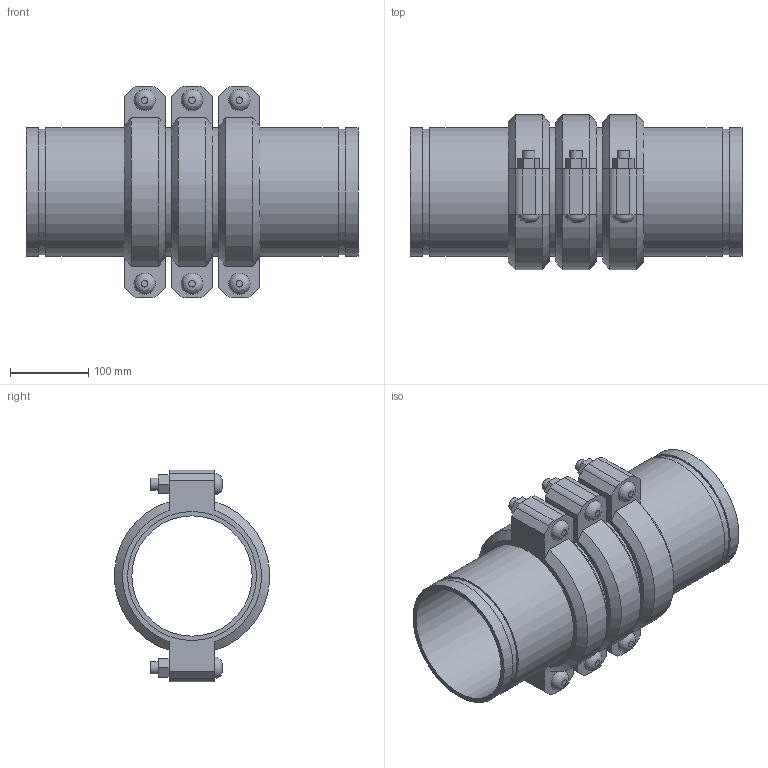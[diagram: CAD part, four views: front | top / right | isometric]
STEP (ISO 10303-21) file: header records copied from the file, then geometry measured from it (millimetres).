
FILE_DESCRIPTION(/* description */ ('VIC EXPANSION JOINT 3 COUPLINGS COMPRESSED STYLE 155 (OGS)','CAx-IF Rec.Pracs.---Representation and Presentation of Product Manufacturing Information (PMI)---4.0---2014-10-13'),/* implementation_level */ '2;1');
FILE_NAME(/* name */ 'C:\Users\kkamble\AppData\Roaming\Autodesk\ApplicationPlugins\Victaulic.Temp\A971\Victaulic_IPS_Expansion Joint_Compressed_3 Couplings_Style 155 (OGS)_06.0 (165.1) (150).stp',/* time_stamp */ '2021-06-27T00:25:52+02:00',/* author */ ('kkamble'),/* organization */ ('Victaulic'),/* preprocessor_version */ 'ST-DEVELOPER v17.2',/* originating_system */ 'Autodesk Inventor 2019',/* authorisation */ '');
FILE_SCHEMA (('AP242_MANAGED_MODEL_BASED_3D_ENGINEERING_MIM_LF { 1 0 10303 442 1 1 4 }'));
Length unit declared in the file: inch
Products named in the file (4): 155-06.5 (165.1); Nipple-06.0 (165.1); Nipple-06.0 (165.1)_1; 075_3_Coup-06.0 (165.1)
Assembly tree (7 placements, depth 2):
  155-06.5 (165.1)
    Nipple-06.0 (165.1)  x2
    Nipple-06.0 (165.1)_1  x2
    075_3_Coup-06.0 (165.1)  x3
Bounding box: 424.94 x 198.42 x 270.76 mm (x, y, z)
Volume: 3201501.6 mm3; surface area: 789638.4 mm2
Topology: 7 solids, 13 shells, 219 faces, 519 edges, 366 vertices
Faces by surface type: plane 132, cylinder 69, cone 12, bspline 6
Full cylindrical faces by diameter (mm): 15.875 x12, 17.424 x6, 153.975 x4, 158.75 x3, 160.782 x8, 165.1 x18
Entity records: 2778 total; most frequent: CARTESIAN_POINT 491, DIRECTION 457, ORIENTED_EDGE 386, EDGE_CURVE 193, AXIS2_PLACEMENT_3D 182, VERTEX_POINT 138, EDGE_LOOP 107, LINE 93
